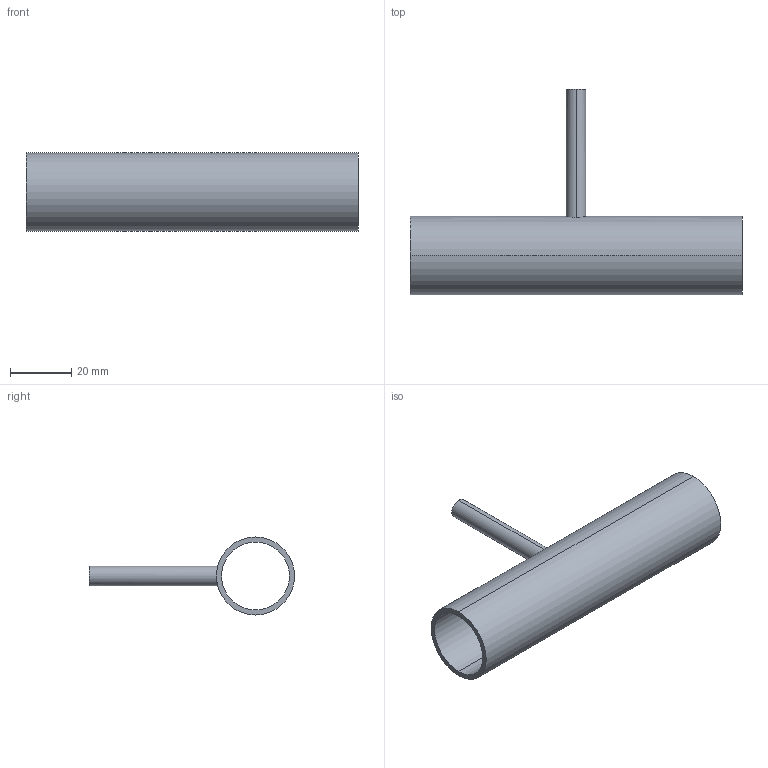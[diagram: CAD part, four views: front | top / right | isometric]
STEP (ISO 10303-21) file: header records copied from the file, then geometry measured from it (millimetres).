
FILE_DESCRIPTION (( 'STEP AP214' ), '1' );
FILE_NAME ('TE7RWWW6L1.0x.25-...STEP', '2016-05-24T04:07:27', ( 'eran' ), ( '' ), 'SwSTEP 2.0', 'SolidWorks 2016', '' );
FILE_SCHEMA (( 'AUTOMOTIVE_DESIGN' ));
Length unit declared in the file: millimetre
Products named in the file (1): TE7RWWW6L1.0x.25-..
Bounding box: 108 x 66.7 x 25.4 mm (x, y, z)
Volume: 13901.6 mm3; surface area: 17775.7 mm2
Topology: 1 solids, 1 shells, 11 faces, 24 edges, 16 vertices
Faces by surface type: cylinder 8, plane 3
Entity records: 468 total; most frequent: CARTESIAN_POINT 176, DIRECTION 56, ORIENTED_EDGE 48, EDGE_CURVE 24, AXIS2_PLACEMENT_3D 24, EDGE_LOOP 16, VERTEX_POINT 16, CIRCLE 12
